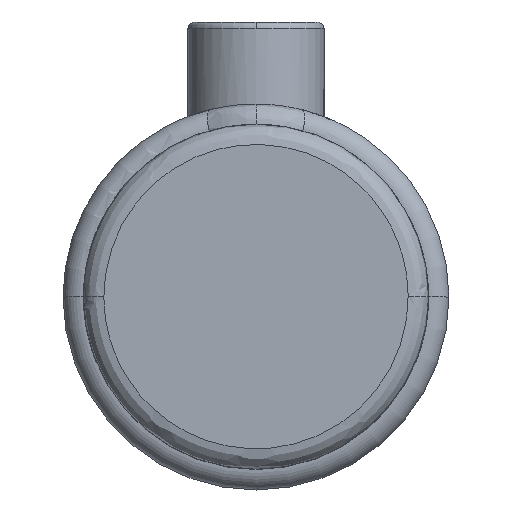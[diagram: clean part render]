
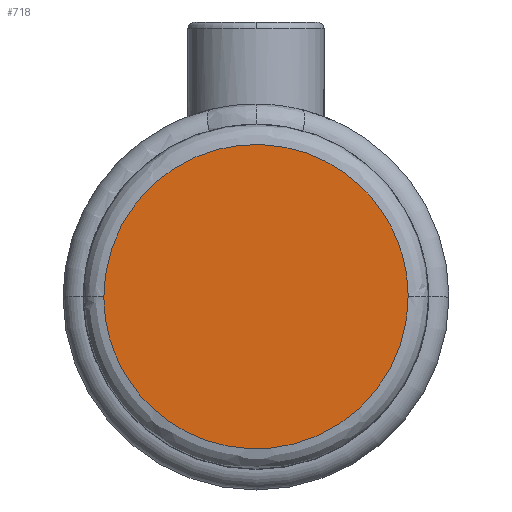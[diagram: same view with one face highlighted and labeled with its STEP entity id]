
A CAD part, top view. The second image highlights one B-rep face of the part: STEP entity #718.
In plain terms, the highlighted planar face has unit normal (0, 0, 1).
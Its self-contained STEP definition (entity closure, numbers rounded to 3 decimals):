
#718 = ADVANCED_FACE ( 'NONE', ( #5820 ), #3557, .T. ) ;
#740 = CARTESIAN_POINT ( 'NONE',  ( 22.35, 0., 38. ) ) ;
#968 = CARTESIAN_POINT ( 'NONE',  ( 0., 12.675, 38. ) ) ;
#1222 = CARTESIAN_POINT ( 'NONE',  ( -22.35, 0., 38. ) ) ;
#1483 = AXIS2_PLACEMENT_3D ( 'NONE', #968, #6060, #2814 ) ;
#2740 = VERTEX_POINT ( 'NONE', #740 ) ;
#2814 = DIRECTION ( 'NONE',  ( 0., -1., 0. ) ) ;
#3038 = CARTESIAN_POINT ( 'NONE',  ( -22.35, 44.7, 38. ) ) ;
#3129 = CARTESIAN_POINT ( 'NONE',  ( -22.35, -44.7, 38. ) ) ;
#3178 = CARTESIAN_POINT ( 'NONE',  ( 22.35, 44.7, 38. ) ) ;
#3513 = EDGE_LOOP ( 'NONE', ( #6324, #6404 ) ) ;
#3557 = PLANE ( 'NONE',  #1483 ) ;
#3767 = EDGE_CURVE ( 'NONE', #7073, #2740, #7983, .T. ) ;
#4723 = CARTESIAN_POINT ( 'NONE',  ( -22.35, 0., 38. ) ) ;
#4907 = EDGE_CURVE ( 'NONE', #2740, #7073, #5389, .T. ) ;
#5389 =( BOUNDED_CURVE ( )  B_SPLINE_CURVE ( 3, ( #8119, #7473, #3129, #7555 ),
 .UNSPECIFIED., .F., .T. ) 
 B_SPLINE_CURVE_WITH_KNOTS ( ( 4, 4 ),
 ( 0.25, 0.75 ),
 .UNSPECIFIED. ) 
 CURVE ( )  GEOMETRIC_REPRESENTATION_ITEM ( )  RATIONAL_B_SPLINE_CURVE ( ( 1., 0.333, 0.333, 1. ) ) 
 REPRESENTATION_ITEM ( '' )  );
#5820 = FACE_OUTER_BOUND ( 'NONE', #3513, .T. ) ;
#6060 = DIRECTION ( 'NONE',  ( 0., 0., 1. ) ) ;
#6324 = ORIENTED_EDGE ( 'NONE', *, *, #4907, .F. ) ;
#6404 = ORIENTED_EDGE ( 'NONE', *, *, #3767, .F. ) ;
#7073 = VERTEX_POINT ( 'NONE', #4723 ) ;
#7473 = CARTESIAN_POINT ( 'NONE',  ( 22.35, -44.7, 38. ) ) ;
#7555 = CARTESIAN_POINT ( 'NONE',  ( -22.35, 0., 38. ) ) ;
#7598 = CARTESIAN_POINT ( 'NONE',  ( 22.35, 0., 38. ) ) ;
#7983 =( BOUNDED_CURVE ( )  B_SPLINE_CURVE ( 3, ( #1222, #3038, #3178, #7598 ),
 .UNSPECIFIED., .F., .T. ) 
 B_SPLINE_CURVE_WITH_KNOTS ( ( 4, 4 ),
 ( 0.75, 1.25 ),
 .UNSPECIFIED. ) 
 CURVE ( )  GEOMETRIC_REPRESENTATION_ITEM ( )  RATIONAL_B_SPLINE_CURVE ( ( 1., 0.333, 0.333, 1. ) ) 
 REPRESENTATION_ITEM ( '' )  );
#8119 = CARTESIAN_POINT ( 'NONE',  ( 22.35, 0., 38. ) ) ;
